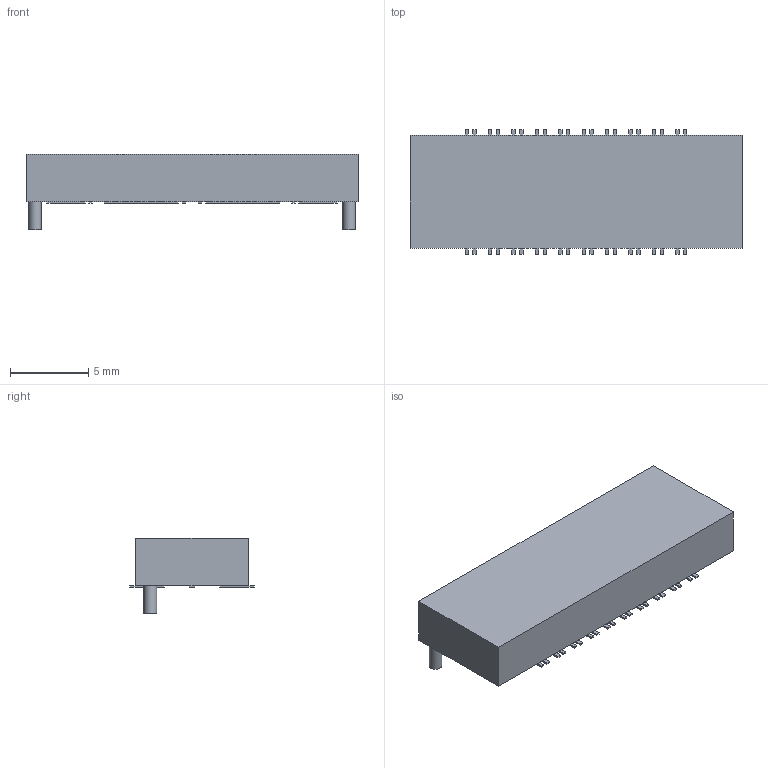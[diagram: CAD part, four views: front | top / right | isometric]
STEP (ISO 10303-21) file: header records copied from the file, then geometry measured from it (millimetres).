
FILE_DESCRIPTION(('FreeCAD Model'),'2;1');
FILE_NAME('/var/www/3D/0T/1916161.1.2.stp','2020-04-10T19:00:39',( 'Author'),(''),'Open CASCADE STEP processor 6.9','FreeCAD','Unknown' );
FILE_SCHEMA(('AUTOMOTIVE_DESIGN { 1 0 10303 214 1 1 1 1 }'));
Length unit declared in the file: millimetre
Products named in the file (4): ASSEMBLY; Body; Pins; Lugs
Assembly tree (4 placements, depth 2):
  ASSEMBLY
    Body
    Pins
    Lugs  x2
Bounding box: 21.27 x 7.95 x 4.85 mm (x, y, z)
Volume: 476 mm3; surface area: 576.7 mm2
Topology: 49 solids, 49 shells, 282 faces, 552 edges, 368 vertices
Faces by surface type: plane 278, cylinder 4
Full cylindrical faces by diameter (mm): 0.82 x4
Entity records: 14460 total; most frequent: CARTESIAN_POINT 2283, DIRECTION 2204, LINE 1630, VECTOR 1630, ORIENTED_EDGE 1092, PCURVE 1092, DEFINITIONAL_REPRESENTATION 1092, EDGE_CURVE 546
